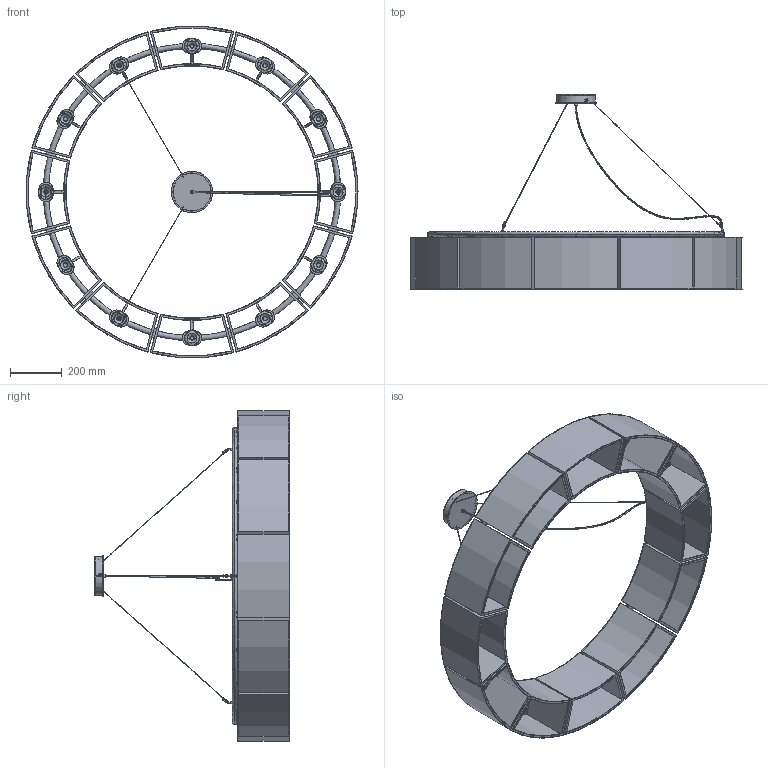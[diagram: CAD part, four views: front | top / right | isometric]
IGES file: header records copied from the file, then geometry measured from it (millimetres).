
Start section: SolidWorks IGES file using analytic representation for surfaces
Global section: file name: C:\Users\GabrielG\Desktop\Sexta 12 CE.IGS; native system: SolidWorks 2015; preprocessor: SolidWorks 2015; author: GabrielG; date: 160211.191605; units: millimetre
Bounding box: 1284 x 753 x 1284 mm (x, y, z)
Surface area: 5021705.5 mm2 (no closed solid volume)
Topology: 0 solids, 0 shells, 1353 faces, 21299 edges, 21290 vertices
Faces by surface type: revolution 973, bspline 380
